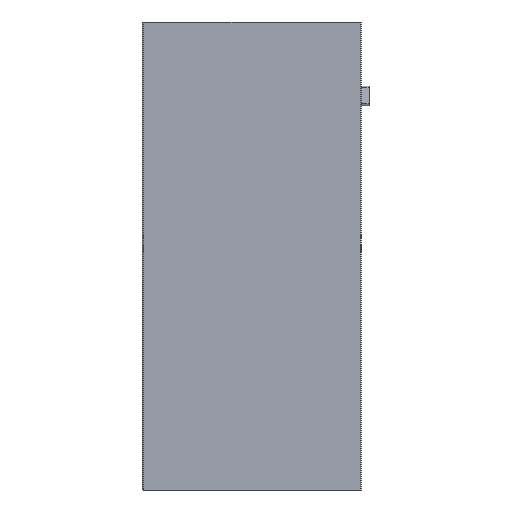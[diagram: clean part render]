
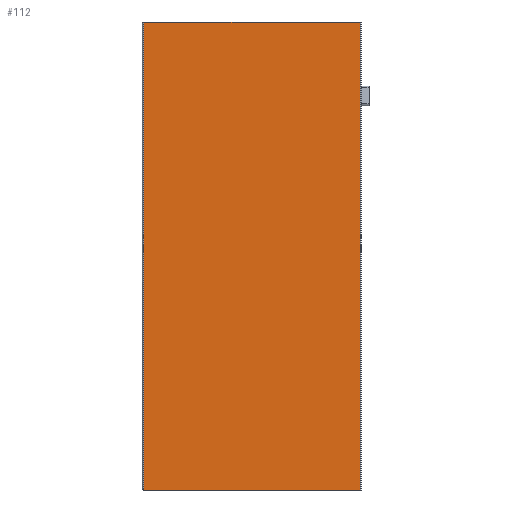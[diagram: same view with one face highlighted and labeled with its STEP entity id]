
A CAD part, left-side view. The second image highlights one B-rep face of the part: STEP entity #112.
In plain terms, the highlighted planar face has unit normal (-1, 0, 0).
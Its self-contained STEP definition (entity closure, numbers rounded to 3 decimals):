
#112 = ADVANCED_FACE ( 'NONE', ( #6786 ), #10170, .T. ) ;
#175 = DIRECTION ( 'NONE',  ( 0., 0., 1. ) ) ;
#855 = CARTESIAN_POINT ( 'NONE',  ( -12.5, -30.66, -562.455 ) ) ;
#915 = CARTESIAN_POINT ( 'NONE',  ( -12.5, 93.8, 0. ) ) ;
#1412 = DIRECTION ( 'NONE',  ( 0., -1., 0. ) ) ;
#1504 = CARTESIAN_POINT ( 'NONE',  ( -12.5, 93.8, -562.455 ) ) ;
#1640 = CARTESIAN_POINT ( 'NONE',  ( -12.5, 56.8, -269. ) ) ;
#2905 = ORIENTED_EDGE ( 'NONE', *, *, #3359, .T. ) ;
#2989 = ORIENTED_EDGE ( 'NONE', *, *, #3882, .T. ) ;
#3015 = ORIENTED_EDGE ( 'NONE', *, *, #4054, .F. ) ;
#3021 = ORIENTED_EDGE ( 'NONE', *, *, #4046, .F. ) ;
#3359 = EDGE_CURVE ( 'NONE', #3614, #10748, #11171, .T. ) ;
#3614 = VERTEX_POINT ( 'NONE', #10767 ) ;
#3851 = CARTESIAN_POINT ( 'NONE',  ( -12.5, -30.66, 0. ) ) ;
#3882 = EDGE_CURVE ( 'NONE', #10748, #8909, #9510, .T. ) ;
#4046 = EDGE_CURVE ( 'NONE', #4930, #8909, #8885, .T. ) ;
#4054 = EDGE_CURVE ( 'NONE', #3614, #4930, #8894, .T. ) ;
#4083 = EDGE_LOOP ( 'NONE', ( #3021, #3015, #2905, #2989 ) ) ;
#4930 = VERTEX_POINT ( 'NONE', #915 ) ;
#5994 = CARTESIAN_POINT ( 'NONE',  ( -12.5, -30.66, -269. ) ) ;
#6126 = CARTESIAN_POINT ( 'NONE',  ( -12.5, 55.8, 0. ) ) ;
#6786 = FACE_OUTER_BOUND ( 'NONE', #4083, .T. ) ;
#8835 = VECTOR ( 'NONE', #10673, 1000. ) ;
#8885 = LINE ( 'NONE', #6126, #9007 ) ;
#8894 = LINE ( 'NONE', #1504, #8835 ) ;
#8909 = VERTEX_POINT ( 'NONE', #3851 ) ;
#9007 = VECTOR ( 'NONE', #10973, 1000. ) ;
#9406 = VECTOR ( 'NONE', #175, 1000. ) ;
#9510 = LINE ( 'NONE', #855, #9406 ) ;
#10064 = DIRECTION ( 'NONE',  ( 0., 1., 0. ) ) ;
#10065 = DIRECTION ( 'NONE',  ( -1., 0., 0. ) ) ;
#10170 = PLANE ( 'NONE',  #10793 ) ;
#10220 = CARTESIAN_POINT ( 'NONE',  ( -12.5, 55.8, -562.455 ) ) ;
#10673 = DIRECTION ( 'NONE',  ( 0., 0., 1. ) ) ;
#10748 = VERTEX_POINT ( 'NONE', #5994 ) ;
#10767 = CARTESIAN_POINT ( 'NONE',  ( -12.5, 93.8, -269. ) ) ;
#10793 = AXIS2_PLACEMENT_3D ( 'NONE', #10220, #10065, #10064 ) ;
#10973 = DIRECTION ( 'NONE',  ( 0., -1., 0. ) ) ;
#11116 = VECTOR ( 'NONE', #1412, 1000. ) ;
#11171 = LINE ( 'NONE', #1640, #11116 ) ;
